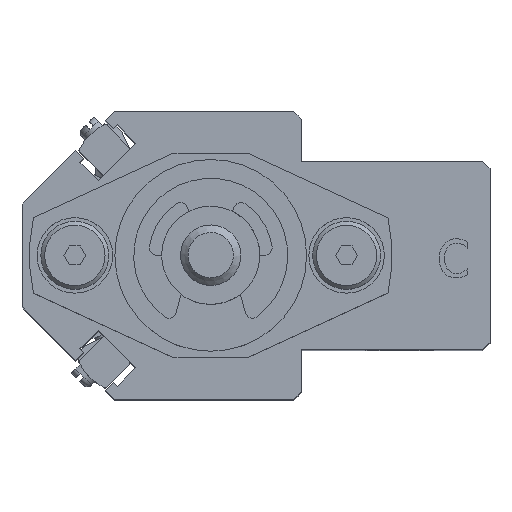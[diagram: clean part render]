
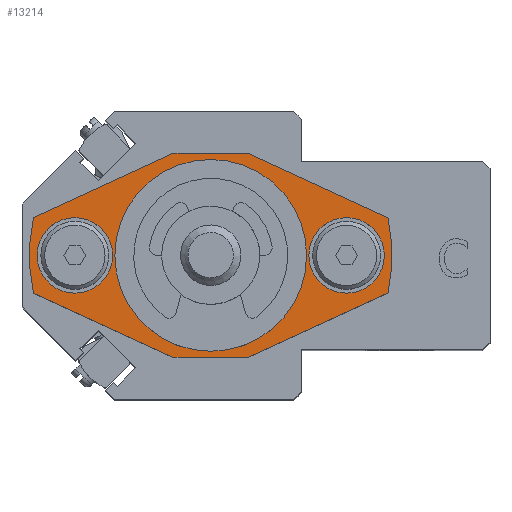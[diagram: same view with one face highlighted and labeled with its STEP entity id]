
A CAD part, top view. The second image highlights one B-rep face of the part: STEP entity #13214.
In plain terms, the highlighted planar face has unit normal (0, 0, 1).
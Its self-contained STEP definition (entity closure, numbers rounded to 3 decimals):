
#375=FACE_BOUND('',#4808,.T.);
#376=FACE_BOUND('',#4809,.T.);
#377=FACE_BOUND('',#4810,.T.);
#1554=LINE('',#21650,#2931);
#1561=LINE('',#21667,#2938);
#1562=LINE('',#21670,#2939);
#1563=LINE('',#21671,#2940);
#1564=LINE('',#21673,#2941);
#1565=LINE('',#21674,#2942);
#2931=VECTOR('',#17587,10.);
#2938=VECTOR('',#17602,10.);
#2939=VECTOR('',#17605,10.);
#2940=VECTOR('',#17606,10.);
#2941=VECTOR('',#17607,10.);
#2942=VECTOR('',#17608,10.);
#3408=CIRCLE('',#14486,10.5);
#3409=CIRCLE('',#14487,10.5);
#3416=CIRCLE('',#14498,24.);
#3418=CIRCLE('',#14501,24.);
#3421=CIRCLE('',#14508,5.);
#3422=CIRCLE('',#14509,5.);
#3423=CIRCLE('',#14510,5.);
#3424=CIRCLE('',#14511,5.);
#4106=FACE_OUTER_BOUND('',#4807,.T.);
#4807=EDGE_LOOP('',(#11090,#11091,#11092,#11093,#11094,#11095,#11096,#11097));
#4808=EDGE_LOOP('',(#11098,#11099));
#4809=EDGE_LOOP('',(#11100,#11101));
#4810=EDGE_LOOP('',(#11102,#11103));
#6010=VERTEX_POINT('',#21608);
#6011=VERTEX_POINT('',#21610);
#6019=VERTEX_POINT('',#21631);
#6020=VERTEX_POINT('',#21633);
#6023=VERTEX_POINT('',#21640);
#6024=VERTEX_POINT('',#21642);
#6026=VERTEX_POINT('',#21648);
#6032=VERTEX_POINT('',#21665);
#6033=VERTEX_POINT('',#21669);
#6034=VERTEX_POINT('',#21672);
#6035=VERTEX_POINT('',#21675);
#6036=VERTEX_POINT('',#21676);
#6037=VERTEX_POINT('',#21679);
#6038=VERTEX_POINT('',#21680);
#7758=EDGE_CURVE('',#6011,#6010,#3408,.T.);
#7759=EDGE_CURVE('',#6010,#6011,#3409,.T.);
#7768=EDGE_CURVE('',#6020,#6019,#3416,.T.);
#7772=EDGE_CURVE('',#6024,#6023,#3418,.T.);
#7776=EDGE_CURVE('',#6019,#6026,#1554,.T.);
#7785=EDGE_CURVE('',#6023,#6032,#1561,.T.);
#7786=EDGE_CURVE('',#6026,#6033,#1562,.T.);
#7787=EDGE_CURVE('',#6033,#6024,#1563,.T.);
#7788=EDGE_CURVE('',#6032,#6034,#1564,.T.);
#7789=EDGE_CURVE('',#6034,#6020,#1565,.T.);
#7790=EDGE_CURVE('',#6035,#6036,#3421,.T.);
#7791=EDGE_CURVE('',#6036,#6035,#3422,.T.);
#7792=EDGE_CURVE('',#6037,#6038,#3423,.T.);
#7793=EDGE_CURVE('',#6038,#6037,#3424,.T.);
#11090=ORIENTED_EDGE('',*,*,#7768,.T.);
#11091=ORIENTED_EDGE('',*,*,#7776,.T.);
#11092=ORIENTED_EDGE('',*,*,#7786,.T.);
#11093=ORIENTED_EDGE('',*,*,#7787,.T.);
#11094=ORIENTED_EDGE('',*,*,#7772,.T.);
#11095=ORIENTED_EDGE('',*,*,#7785,.T.);
#11096=ORIENTED_EDGE('',*,*,#7788,.T.);
#11097=ORIENTED_EDGE('',*,*,#7789,.T.);
#11098=ORIENTED_EDGE('',*,*,#7758,.T.);
#11099=ORIENTED_EDGE('',*,*,#7759,.T.);
#11100=ORIENTED_EDGE('',*,*,#7790,.T.);
#11101=ORIENTED_EDGE('',*,*,#7791,.T.);
#11102=ORIENTED_EDGE('',*,*,#7792,.T.);
#11103=ORIENTED_EDGE('',*,*,#7793,.T.);
#12417=PLANE('',#14507);
#13214=ADVANCED_FACE('',(#4106,#375,#376,#377),#12417,.T.);
#14486=AXIS2_PLACEMENT_3D('',#21611,#17546,#17547);
#14487=AXIS2_PLACEMENT_3D('',#21612,#17548,#17549);
#14498=AXIS2_PLACEMENT_3D('',#21634,#17572,#17573);
#14501=AXIS2_PLACEMENT_3D('',#21643,#17580,#17581);
#14507=AXIS2_PLACEMENT_3D('',#21668,#17603,#17604);
#14508=AXIS2_PLACEMENT_3D('',#21677,#17609,#17610);
#14509=AXIS2_PLACEMENT_3D('',#21678,#17611,#17612);
#14510=AXIS2_PLACEMENT_3D('',#21681,#17613,#17614);
#14511=AXIS2_PLACEMENT_3D('',#21682,#17615,#17616);
#17546=DIRECTION('center_axis',(0.,0.,-1.));
#17547=DIRECTION('ref_axis',(1.,0.,0.));
#17548=DIRECTION('center_axis',(0.,0.,-1.));
#17549=DIRECTION('ref_axis',(1.,0.,0.));
#17572=DIRECTION('center_axis',(0.,0.,1.));
#17573=DIRECTION('ref_axis',(0.978,-0.208,0.));
#17580=DIRECTION('center_axis',(0.,0.,1.));
#17581=DIRECTION('ref_axis',(-0.978,0.208,0.));
#17587=DIRECTION('',(0.908,-0.418,0.));
#17602=DIRECTION('',(-0.908,0.418,0.));
#17603=DIRECTION('center_axis',(0.,0.,1.));
#17604=DIRECTION('ref_axis',(1.,0.,0.));
#17605=DIRECTION('',(1.,0.,0.));
#17606=DIRECTION('',(0.908,0.418,0.));
#17607=DIRECTION('',(-1.,0.,0.));
#17608=DIRECTION('',(-0.908,-0.418,0.));
#17609=DIRECTION('center_axis',(0.,0.,-1.));
#17610=DIRECTION('ref_axis',(1.,0.,0.));
#17611=DIRECTION('center_axis',(0.,0.,-1.));
#17612=DIRECTION('ref_axis',(1.,0.,0.));
#17613=DIRECTION('center_axis',(0.,0.,-1.));
#17614=DIRECTION('ref_axis',(1.,0.,0.));
#17615=DIRECTION('center_axis',(0.,0.,-1.));
#17616=DIRECTION('ref_axis',(1.,0.,0.));
#21608=CARTESIAN_POINT('',(-10.5,0.,6.));
#21610=CARTESIAN_POINT('',(10.5,0.,6.));
#21611=CARTESIAN_POINT('Origin',(0.,0.,6.));
#21612=CARTESIAN_POINT('Origin',(0.,0.,6.));
#21631=CARTESIAN_POINT('',(-23.473,-5.001,6.));
#21633=CARTESIAN_POINT('',(-23.473,5.001,6.));
#21634=CARTESIAN_POINT('Origin',(0.,0.,6.));
#21640=CARTESIAN_POINT('',(23.473,5.001,6.));
#21642=CARTESIAN_POINT('',(23.473,-5.001,6.));
#21643=CARTESIAN_POINT('Origin',(0.,0.,6.));
#21648=CARTESIAN_POINT('',(-5.,-13.5,6.));
#21650=CARTESIAN_POINT('',(-15.7,-8.578,6.));
#21665=CARTESIAN_POINT('',(5.,13.5,6.));
#21667=CARTESIAN_POINT('',(15.7,8.578,6.));
#21668=CARTESIAN_POINT('Origin',(0.,0.,6.));
#21669=CARTESIAN_POINT('',(5.,-13.5,6.));
#21670=CARTESIAN_POINT('',(25.4,-13.5,6.));
#21671=CARTESIAN_POINT('',(15.7,-8.578,6.));
#21672=CARTESIAN_POINT('',(-5.,13.5,6.));
#21673=CARTESIAN_POINT('',(-25.4,13.5,6.));
#21674=CARTESIAN_POINT('',(-15.7,8.578,6.));
#21675=CARTESIAN_POINT('',(-13.,0.,6.));
#21676=CARTESIAN_POINT('',(-23.,0.,6.));
#21677=CARTESIAN_POINT('Origin',(-18.,0.,6.));
#21678=CARTESIAN_POINT('Origin',(-18.,0.,6.));
#21679=CARTESIAN_POINT('',(23.,0.,6.));
#21680=CARTESIAN_POINT('',(13.,0.,6.));
#21681=CARTESIAN_POINT('Origin',(18.,0.,6.));
#21682=CARTESIAN_POINT('Origin',(18.,0.,6.));
